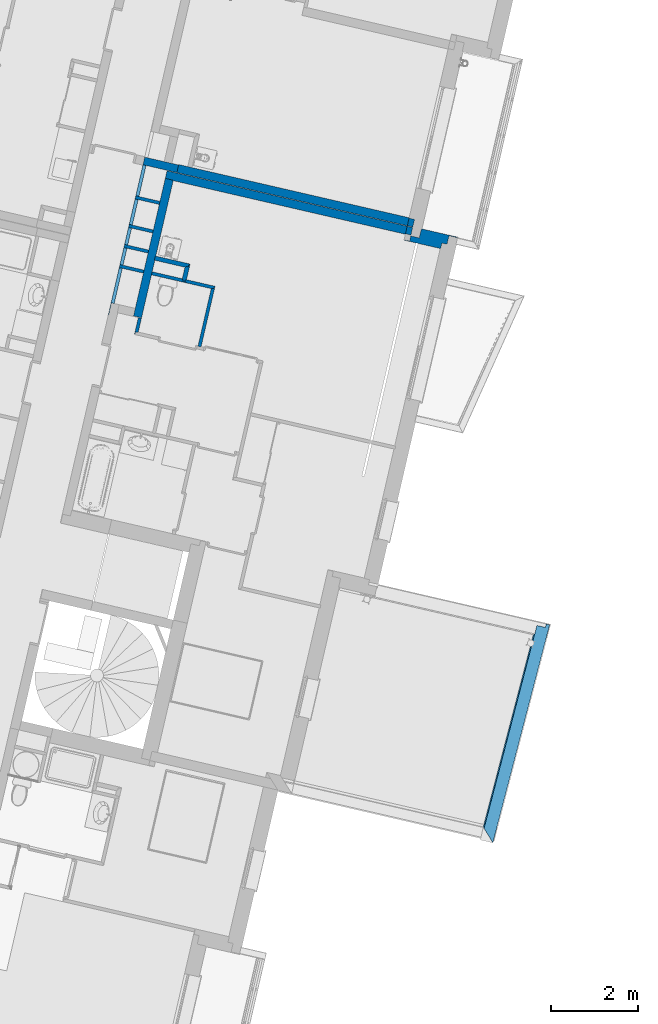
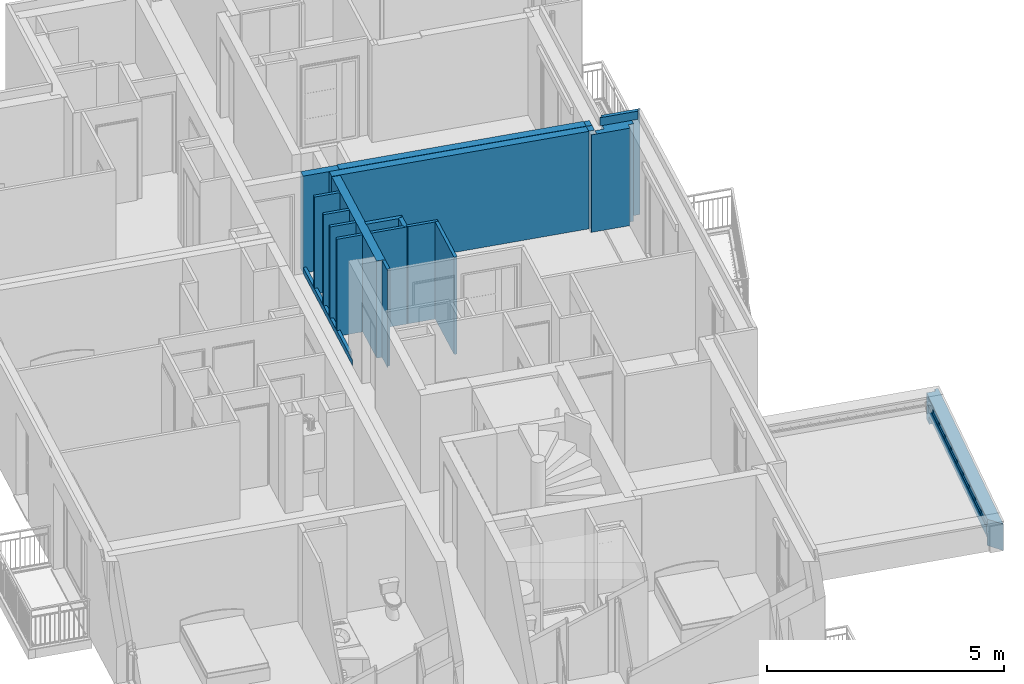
# One storey, part 50 of 90: 19 walls.
"""IFC2X3 building model written with IfcOpenShell, lengths in metres."""

from ifc_helpers import new_model, entity, si_unit, converted_unit, derived_unit, money_unit, direction, frame, origin_with_axes, place, context, subcontext, project, spatial, faceted_brep, material, material_list, type_object, element, save


model = new_model("IFC2X3")

# Units and contexts
model_context = context("Model", 3, precision=1e-05, world=origin_with_axes(), true_north=direction((0.0, 1.0)))
body_context = subcontext(model_context, "Body", "Model", "MODEL_VIEW")
ifc_project = project(units=[si_unit("LENGTHUNIT", "METRE"), si_unit("AREAUNIT", "SQUARE_METRE"), si_unit("VOLUMEUNIT", "CUBIC_METRE"), converted_unit("PLANEANGLEUNIT", "DEGREE", entity("IfcPlaneAngleMeasure", 0.0174532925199), si_unit("PLANEANGLEUNIT", "RADIAN"), dimensions=[0, 0, 0, 0, 0, 0, 0]), si_unit("SOLIDANGLEUNIT", "STERADIAN"), money_unit("EUR"), converted_unit("TIMEUNIT", "Year", entity("IfcTimeMeasure", 31556926.0), si_unit("TIMEUNIT", "SECOND"), dimensions=[0, 0, 1, 0, 0, 0, 0]), si_unit("MASSUNIT", "GRAM", prefix="KILO"), si_unit("THERMODYNAMICTEMPERATUREUNIT", "DEGREE_CELSIUS"), si_unit("LUMINOUSINTENSITYUNIT", "LUMEN"), si_unit("ENERGYUNIT", "JOULE", prefix="MEGA"), derived_unit("THERMALCONDUCTANCEUNIT", [(si_unit("POWERUNIT", "WATT"), 1), (si_unit("LENGTHUNIT", "METRE"), -1), (si_unit("THERMODYNAMICTEMPERATUREUNIT", "KELVIN"), -1)]), derived_unit("SPECIFICHEATCAPACITYUNIT", [(si_unit("ENERGYUNIT", "JOULE"), 1), (si_unit("MASSUNIT", "GRAM", prefix="KILO"), -1), (si_unit("THERMODYNAMICTEMPERATUREUNIT", "KELVIN"), -1)]), derived_unit("MASSDENSITYUNIT", [(si_unit("MASSUNIT", "GRAM", prefix="KILO"), 1), (si_unit("VOLUMEUNIT", "CUBIC_METRE"), -1)])], contexts=[model_context])

# Site, building, storey
site_placement = place(None, origin_with_axes())
site = spatial("IfcSite", under=ifc_project, at=site_placement, Name="Site", CompositionType="ELEMENT")
building_placement = place(site_placement, origin_with_axes())
building = spatial("IfcBuilding", under=site, at=building_placement, Name="Bâtiment", CompositionType="ELEMENT")
storey_placement = place(building_placement, frame((0.0, 0.0, 2.72), z_axis=(0.0, 0.0, 1.0), x_axis=(1.0, 0.0, 0.0)))
storey = spatial("IfcBuildingStorey", under=building, at=storey_placement, Name="R+1", CompositionType="ELEMENT", Elevation=2.72)

# Walls
ifc_material_1 = material(Name="Finition ext - Crépis")
ifc_material_2 = material(Name="Béton cellulaire")
ifc_material_3 = material(Name="Mortier")
ifc_material_4 = material(Name="Isolation - Polystyrène expansé")
ifc_material_5 = material(Name="Bloc ELITHERM")
ifc_material_6 = material(Name="Isolation - Polystyrène extrudé")
ifc_material_7 = material(Name="Finition int - Plaque de plâtre")
ifc_material_list_1 = material_list([ifc_material_1, ifc_material_2, ifc_material_3, ifc_material_4, ifc_material_5, ifc_material_6, ifc_material_7])
wall_type_1 = type_object("IfcWallType", Name="Mur ALKERN + planelle 21 345 x 2720", PredefinedType="USERDEFINED")
wall_1_placement = place(storey_placement, frame((-2.0399750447, 2.57865305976, 0.0), z_axis=(0.0, 0.0, 1.0), x_axis=(0.974387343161, -0.224876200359, 0.0)))
element("IfcWall", 1, at=wall_1_placement, inside=storey, type_object=wall_type_1, material=ifc_material_list_1, Name="Mue bloc ALKERN isolé", ObjectType="SOLIDWALL", context=body_context, shape_type="Brep", body=[
    faceted_brep([(-0.0149999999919, -0.0149999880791, 2.72), (0.825808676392, -0.0149999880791, 2.72), (0.825808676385, 0.0, 2.72), (-0.015, 0.0, 2.72), (0.825808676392, -0.0149999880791, 0.0), (-0.0149999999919, -0.0149999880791, 0.0), (0.825808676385, 0.0, 0.0), (-0.015, 0.0, 0.0)], [[[0, 1, 2, 3]], [[4, 1, 0, 5]], [[6, 2, 1, 4]], [[3, 2, 6, 7]], [[5, 0, 3, 7]], [[7, 6, 4, 5]]]),
    faceted_brep([(0.777808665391, -0.0629999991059, 2.72), (0.777808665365, -0.015, 2.72), (-0.0299999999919, -0.015, 2.72), (-0.0299999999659, -0.0629999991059, 2.72), (0.777808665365, -0.015, 2.51999999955), (0.777808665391, -0.0629999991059, 2.51999999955), (-0.0299999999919, -0.015, 2.51999999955), (-0.0299999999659, -0.0629999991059, 2.51999999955)], [[[0, 1, 2, 3]], [[4, 1, 0, 5]], [[1, 4, 6, 2]], [[3, 2, 6, 7]], [[5, 0, 3, 7]], [[4, 5, 7, 6]]]),
    faceted_brep([(0.757808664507, -0.083, 2.52), (0.757808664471, -0.015, 2.52), (-0.0299999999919, -0.015, 2.52), (-0.0299999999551, -0.083, 2.52), (0.757808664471, -0.015, 2.51), (0.757808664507, -0.083, 2.51), (-0.0299999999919, -0.015, 2.51), (-0.0299999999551, -0.083, 2.51)], [[[0, 1, 2, 3]], [[4, 1, 0, 5]], [[1, 4, 6, 2]], [[3, 2, 6, 7]], [[5, 0, 3, 7]], [[4, 5, 7, 6]]]),
    faceted_brep([(-0.0780000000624, -0.083000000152, 2.72), (0.757808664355, -0.083000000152, 2.72), (0.757808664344, -0.0630000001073, 2.72), (-0.0780000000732, -0.0630000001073, 2.72), (-0.0780000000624, -0.083000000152, 2.51999999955), (0.757808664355, -0.083000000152, 2.51999999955), (0.757808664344, -0.0630000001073, 2.51999999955), (-0.0780000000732, -0.0630000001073, 2.51999999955)], [[[0, 1, 2, 3]], [[4, 5, 1, 0]], [[5, 6, 2, 1]], [[3, 2, 6, 7]], [[4, 0, 3, 7]], [[7, 6, 5, 4]]]),
    faceted_brep([(0.625808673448, -0.0829999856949, 2.50999999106), (0.625808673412, -0.015, 2.50999999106), (-0.0299999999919, -0.015, 2.50999999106), (-0.0299999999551, -0.0829999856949, 2.50999999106), (0.625808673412, -0.015, 0.0), (0.625808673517, -0.214999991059, 2.50999999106), (0.625808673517, -0.214999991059, 0.0), (-0.0299999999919, -0.015, 0.0), (-0.0299999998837, -0.214999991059, 0.0), (-0.0299999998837, -0.214999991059, 2.50999999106)], [[[0, 1, 2, 3]], [[4, 1, 0, 5, 6]], [[1, 4, 7, 2]], [[3, 2, 7, 8, 9]], [[5, 0, 3, 9]], [[6, 5, 9, 8]], [[4, 6, 8, 7]]]),
    faceted_brep([(-0.230000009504, -0.335000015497, 2.51), (0.505808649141, -0.335000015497, 2.51), (0.505808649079, -0.215000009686, 2.51), (-0.230000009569, -0.215000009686, 2.51), (-0.230000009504, -0.335000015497, 0.0), (0.505808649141, -0.335000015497, 0.0), (0.505808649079, -0.215000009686, 0.0), (-0.230000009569, -0.215000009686, 0.0)], [[[0, 1, 2, 3]], [[4, 5, 1, 0]], [[5, 6, 2, 1]], [[3, 2, 6, 7]], [[4, 0, 3, 7]], [[7, 6, 5, 4]]]),
    faceted_brep([(-0.350000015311, -0.34499998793, 2.51), (0.495808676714, -0.34499998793, 2.51), (0.495808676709, -0.335000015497, 2.51), (-0.350000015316, -0.335000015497, 2.51), (-0.350000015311, -0.34499998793, 0.0), (0.495808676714, -0.34499998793, 0.0), (0.495808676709, -0.335000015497, 0.0), (-0.350000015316, -0.335000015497, 0.0)], [[[0, 1, 2, 3]], [[4, 5, 1, 0]], [[5, 6, 2, 1]], [[3, 2, 6, 7]], [[4, 0, 3, 7]], [[7, 6, 5, 4]]]),
])
ifc_material_8 = material(Name="Cloison - Carreaux de plâtre")
wall_type_2 = type_object("IfcWallType", Name="Cloison - Carreaux de plâtre 74", PredefinedType="USERDEFINED")
wall_2_placement = place(storey_placement, frame((-9.20392746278, 0.883172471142, 0.0), z_axis=(0.0, 0.0, 1.0), x_axis=(0.224876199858, 0.974387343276, 0.0)))
element("IfcWall", 2, at=wall_2_placement, inside=storey, type_object=wall_type_2, material=ifc_material_8, Name="Carreaux de plâtre 8cm", ObjectType="PARTITIONING", context=body_context, shape_type="Brep", body=[
    faceted_brep([(3.25805722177, 0.0, 0.15), (-0.29, 0.0, 0.15), (-0.29, -0.00999999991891, 0.15), (0.0, -0.00999999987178, 0.15), (0.0, -0.074, 0.15), (3.25805722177, -0.074, 0.15), (3.25805722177, 0.0, 0.0), (-0.29, 0.0, 0.0), (-0.29, -0.00999999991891, 0.0), (0.0, -0.00999999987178, 0.0), (0.0, -0.074, 0.0), (3.25805722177, -0.074, 0.0)], [[[0, 1, 2, 3, 4, 5]], [[0, 6, 7, 1]], [[1, 7, 8, 2]], [[8, 9, 3, 2]], [[3, 9, 10, 4]], [[11, 5, 4, 10]], [[5, 11, 6, 0]], [[11, 10, 9, 8, 7, 6]]]),
])
wall_3_placement = place(storey_placement, frame((-8.78745674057, 2.6877378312, 0.0), z_axis=(0.0, 0.0, 1.0), x_axis=(0.974387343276, -0.224876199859, 0.0)))
element("IfcWall", 3, at=wall_3_placement, inside=storey, type_object=wall_type_2, material=ifc_material_8, Name="Carreaux de plâtre 8cm", ObjectType="PARTITIONING", context=body_context, shape_type="Brep", body=[
    faceted_brep([(0.570000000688, 0.0, 0.0), (0.0739999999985, 0.0, 0.0), (0.0739999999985, 0.0, 0.15), (0.0, 0.0, 0.15), (0.0, 0.0, 2.5), (0.570000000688, 0.0, 2.5), (0.570000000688, -0.074, 0.0), (0.0739999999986, -0.074, 0.0), (0.0739999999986, -0.074, 0.15), (0.0, -0.074, 0.15), (0.0, -0.074, 2.5), (0.570000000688, -0.074, 2.5)], [[[0, 1, 2, 3, 4, 5]], [[0, 6, 7, 1]], [[7, 8, 2, 1]], [[8, 9, 3, 2]], [[10, 4, 3, 9]], [[10, 11, 5, 4]], [[11, 6, 0, 5]], [[10, 9, 8, 7, 6, 11]]]),
])
wall_4_placement = place(storey_placement, frame((-8.63589018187, 3.34447490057, 0.0), z_axis=(0.0, 0.0, 1.0), x_axis=(0.974387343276, -0.224876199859, 0.0)))
element("IfcWall", 4, at=wall_4_placement, inside=storey, type_object=wall_type_2, material=ifc_material_8, Name="Carreaux de plâtre 8cm", ObjectType="PARTITIONING", context=body_context, shape_type="Brep", body=[
    faceted_brep([(0.570000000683, 0.0, 0.0), (0.0739999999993, 0.0, 0.0), (0.0739999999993, 0.0, 0.15), (0.0, 0.0, 0.15), (0.0, 0.0, 2.5), (0.570000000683, 0.0, 2.5), (0.570000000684, -0.074, 0.0), (0.0739999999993, -0.074, 0.0), (0.0739999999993, -0.074, 0.15), (0.0, -0.074, 0.15), (0.0, -0.074, 2.5), (0.570000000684, -0.074, 2.5)], [[[0, 1, 2, 3, 4, 5]], [[0, 6, 7, 1]], [[7, 8, 2, 1]], [[8, 9, 3, 2]], [[10, 4, 3, 9]], [[10, 11, 5, 4]], [[11, 6, 0, 5]], [[10, 9, 8, 7, 6, 11]]]),
])
wall_5_placement = place(storey_placement, frame((-9.00063937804, 1.76401862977, 0.0), z_axis=(0.0, 0.0, 1.0), x_axis=(0.974387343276, -0.224876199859, 0.0)))
element("IfcWall", 5, at=wall_5_placement, inside=storey, type_object=wall_type_2, material=ifc_material_8, Name="Carreaux de plâtre 8cm", ObjectType="PARTITIONING", context=body_context, shape_type="Brep", body=[
    faceted_brep([(0.570000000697, 0.0, 0.0), (0.0740000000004, 0.0, 0.0), (0.0740000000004, 0.0, 0.15), (0.0, 0.0, 0.15), (0.0, 0.0, 2.5), (0.570000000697, 0.0, 2.5), (0.570000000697, -0.074, 0.0), (0.0740000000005, -0.074, 0.0), (0.0740000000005, -0.074, 0.15), (0.0, -0.074, 0.15), (0.0, -0.074, 2.5), (0.570000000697, -0.074, 2.5)], [[[0, 1, 2, 3, 4, 5]], [[0, 6, 7, 1]], [[7, 8, 2, 1]], [[8, 9, 3, 2]], [[10, 4, 3, 9]], [[10, 11, 5, 4]], [[11, 6, 0, 5]], [[10, 9, 8, 7, 6, 11]]]),
])
wall_6_placement = place(storey_placement, frame((-8.89404805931, 2.22587823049, 0.0), z_axis=(0.0, 0.0, 1.0), x_axis=(0.974387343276, -0.224876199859, 0.0)))
element("IfcWall", 6, at=wall_6_placement, inside=storey, type_object=wall_type_2, material=ifc_material_8, Name="Carreaux de plâtre 8cm", ObjectType="PARTITIONING", context=body_context, shape_type="Brep", body=[
    faceted_brep([(0.570000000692, 0.0, 0.0), (0.0739999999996, 0.0, 0.0), (0.0739999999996, 0.0, 0.15), (0.0, 0.0, 0.15), (0.0, 0.0, 2.5), (0.570000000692, 0.0, 2.5), (0.570000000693, -0.074, 0.0), (0.0739999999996, -0.074, 0.0), (0.0739999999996, -0.074, 0.15), (0.0, -0.074, 0.15), (0.0, -0.074, 2.5), (0.570000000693, -0.074, 2.5)], [[[0, 1, 2, 3, 4, 5]], [[0, 6, 7, 1]], [[7, 8, 2, 1]], [[8, 9, 3, 2]], [[10, 4, 3, 9]], [[10, 11, 5, 4]], [[11, 6, 0, 5]], [[10, 9, 8, 7, 6, 11]]]),
])
ifc_material_9 = material(Name="Isolation - Laine de roche")
ifc_material_list_2 = material_list([ifc_material_7, ifc_material_9, ifc_material_7])
wall_type_3 = type_object("IfcWallType", Name="3 - Cloison 72mm Placostil 74", PredefinedType="USERDEFINED")
wall_7_placement = place(storey_placement, frame((-6.81321467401, 1.26329398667, 0.0), z_axis=(0.0, 0.0, 1.0), x_axis=(-0.97438734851, 0.224876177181, 0.0)))
element("IfcWall", 7, at=wall_7_placement, inside=storey, type_object=wall_type_3, material=ifc_material_list_2, Name="Cloison Placostil 72/48", ObjectType="PARTITIONING", context=body_context, shape_type="Brep", body=[
    faceted_brep([(0.0610000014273, 0.061, 0.0), (0.674000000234, 0.0609999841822, 0.0), (0.674000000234, 0.0609999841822, 2.5), (0.0610000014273, 0.061, 2.5), (0.0610000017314, 0.074, 0.0), (0.674000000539, 0.0739999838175, 0.0), (0.674000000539, 0.0739999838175, 2.5), (0.0610000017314, 0.074, 2.5)], [[[0, 1, 2, 3]], [[4, 5, 1, 0]], [[5, 6, 2, 1]], [[3, 2, 6, 7]], [[7, 4, 0, 3]], [[7, 6, 5, 4]]]),
    faceted_brep([(0.0130000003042, 0.013, 0.0), (0.699999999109, 0.0129999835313, 0.0), (0.699999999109, 0.0129999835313, 2.5), (0.0130000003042, 0.013, 2.5), (0.0130000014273, 0.061, 0.0), (0.700000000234, 0.0609999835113, 0.0), (0.700000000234, 0.0609999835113, 2.5), (0.0130000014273, 0.061, 2.5)], [[[0, 1, 2, 3]], [[4, 5, 1, 0]], [[5, 6, 2, 1]], [[3, 2, 6, 7]], [[7, 4, 0, 3]], [[7, 6, 5, 4]]]),
    faceted_brep([(0.0, 0.0, 0.0), (0.673999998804, -1.5876288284e-08, 0.0), (0.673999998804, -1.5876288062e-08, 2.5), (0.0, 0.0, 2.5), (3.04170022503e-10, 0.013, 0.0), (0.673999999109, 0.0129999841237, 0.0), (0.673999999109, 0.0129999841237, 2.5), (3.04170022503e-10, 0.013, 2.5)], [[[0, 1, 2, 3]], [[4, 5, 1, 0]], [[5, 6, 2, 1]], [[3, 2, 6, 7]], [[7, 4, 0, 3]], [[7, 6, 5, 4]]]),
])
wall_8_placement = place(storey_placement, frame((-7.1500792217, -0.196338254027, 0.0), z_axis=(0.0, 0.0, 1.0), x_axis=(0.224876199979, 0.974387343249, 0.0)))
element("IfcWall", 8, at=wall_8_placement, inside=storey, type_object=wall_type_3, material=ifc_material_list_2, Name="Cloison Placostil 72/48", ObjectType="PARTITIONING", context=body_context, shape_type="Brep", body=[
    faceted_brep([(1.4239999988, 0.074, 0.0), (1.4239999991, 0.061, 0.0), (0.0740000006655, 0.061, 0.0), (0.0740000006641, 0.074, 0.0), (1.4239999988, 0.074, 2.5), (1.4239999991, 0.061, 2.5), (0.0740000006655, 0.061, 2.5), (0.0740000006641, 0.074, 2.5)], [[[0, 1, 2, 3]], [[1, 0, 4, 5]], [[1, 5, 6, 2]], [[7, 3, 2, 6]], [[4, 0, 3, 7]], [[5, 4, 7, 6]]]),
    faceted_brep([(1.4369999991, 0.061, 0.0), (1.43700000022, 0.013, 0.0), (0.0610000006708, 0.013, 0.0), (0.0610000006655, 0.061, 0.0), (1.4369999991, 0.061, 2.5), (1.43700000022, 0.013, 2.5), (0.0610000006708, 0.013, 2.5), (0.0610000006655, 0.061, 2.5)], [[[0, 1, 2, 3]], [[1, 0, 4, 5]], [[1, 5, 6, 2]], [[7, 3, 2, 6]], [[4, 0, 3, 7]], [[5, 4, 7, 6]]]),
    faceted_brep([(1.48500000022, 0.013, 0.0), (1.48500000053, 0.0, 0.0), (0.0740000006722, 0.0, 0.0), (0.0740000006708, 0.013, 0.0), (1.48500000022, 0.013, 2.5), (1.48500000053, 0.0, 2.5), (0.0740000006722, 0.0, 2.5), (0.0740000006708, 0.013, 2.5)], [[[0, 1, 2, 3]], [[1, 0, 4, 5]], [[1, 5, 6, 2]], [[7, 3, 2, 6]], [[4, 0, 3, 7]], [[5, 4, 7, 6]]]),
])
wall_9_placement = place(storey_placement, frame((-8.50611955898, 0.527132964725, 0.0), z_axis=(0.0, 0.0, 1.0), x_axis=(-0.224876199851, -0.974387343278, 0.0)))
element("IfcWall", 9, at=wall_9_placement, inside=storey, type_object=wall_type_3, material=ifc_material_list_2, Name="Cloison Placostil 72/48", ObjectType="PARTITIONING", context=body_context, shape_type="Brep", body=[
    faceted_brep([(0.32600000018, -0.013, 2.5), (0.326000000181, 0.0, 2.5), (0.0, 0.0, 2.5), (0.0, -0.013, 2.5), (0.32600000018, -0.013, 0.0), (0.326000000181, 0.0, 0.0), (0.0, 0.0, 0.0), (0.0, -0.013, 0.0)], [[[0, 1, 2, 3]], [[1, 0, 4, 5]], [[1, 5, 6, 2]], [[7, 3, 2, 6]], [[4, 0, 3, 7]], [[5, 4, 7, 6]]]),
    faceted_brep([(0.339000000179, -0.061, 2.5), (0.33900000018, -0.013, 2.5), (0.0, -0.013, 2.5), (0.0, -0.061, 2.5), (0.339000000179, -0.061, 0.0), (0.33900000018, -0.013, 0.0), (0.0, -0.013, 0.0), (0.0, -0.061, 0.0)], [[[0, 1, 2, 3]], [[1, 0, 4, 5]], [[1, 5, 6, 2]], [[7, 3, 2, 6]], [[4, 0, 3, 7]], [[5, 4, 7, 6]]]),
    faceted_brep([(0.387000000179, -0.074, 2.5), (0.387000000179, -0.061, 2.5), (0.0, -0.061, 2.5), (0.0, -0.074, 2.5), (0.387000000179, -0.074, 0.0), (0.387000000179, -0.061, 0.0), (0.0, -0.061, 0.0), (0.0, -0.074, 0.0)], [[[0, 1, 2, 3]], [[1, 0, 4, 5]], [[1, 5, 6, 2]], [[7, 3, 2, 6]], [[4, 0, 3, 7]], [[5, 4, 7, 6]]]),
])
wall_type_4 = type_object("IfcWallType", Name="3 - Cloison Gaine Technique 72mm 74", PredefinedType="USERDEFINED")
wall_10_placement = place(storey_placement, frame((-7.46995174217, 1.41486054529, 0.0), z_axis=(0.0, 0.0, 1.0), x_axis=(-0.974387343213, 0.224876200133, 0.0)))
element("IfcWall", 10, at=wall_10_placement, inside=storey, type_object=wall_type_4, material=ifc_material_list_2, Name="Cloison Placostil 72/48", ObjectType="PARTITIONING", context=body_context, shape_type="Brep", body=[
    faceted_brep([(0.0259999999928, 0.061, 0.0), (0.0259999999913, 0.074, 0.0), (0.810000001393, 0.074, 0.0), (0.810000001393, 0.061, 0.0), (0.0259999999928, 0.061, 2.5), (0.0259999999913, 0.074, 2.5), (0.810000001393, 0.074, 2.5), (0.810000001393, 0.061, 2.5)], [[[0, 1, 2, 3]], [[4, 5, 1, 0]], [[1, 5, 6, 2]], [[7, 3, 2, 6]], [[4, 0, 3, 7]], [[5, 4, 7, 6]]]),
    faceted_brep([(0.0739999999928, 0.061, 0.0), (0.810000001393, 0.061, 0.0), (0.810000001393, 0.013, 0.0), (0.0739999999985, 0.013, 0.0), (0.0739999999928, 0.061, 2.5), (0.810000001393, 0.061, 2.5), (0.810000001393, 0.013, 2.5), (0.0739999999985, 0.013, 2.5)], [[[0, 1, 2, 3]], [[4, 5, 1, 0]], [[2, 1, 5, 6]], [[3, 2, 6, 7]], [[4, 0, 3, 7]], [[7, 6, 5, 4]]]),
    faceted_brep([(0.0999999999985, 0.013, 0.0), (0.810000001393, 0.013, 0.0), (0.810000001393, 0.0, 0.0), (0.1, 0.0, 0.0), (0.0999999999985, 0.013, 2.5), (0.810000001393, 0.013, 2.5), (0.810000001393, 0.0, 2.5), (0.1, 0.0, 2.5)], [[[0, 1, 2, 3]], [[4, 5, 1, 0]], [[2, 1, 5, 6]], [[3, 2, 6, 7]], [[4, 0, 3, 7]], [[7, 6, 5, 4]]]),
])
ifc_material_10 = material(Name="Finition int - Enduit plâtre")
ifc_material_11 = material(Name="Béton")
ifc_material_list_3 = material_list([ifc_material_10, ifc_material_11])
wall_type_5 = type_object("IfcWallType", Name="2 - Murs Béton 18 + Enduit 1 Face 190", PredefinedType="USERDEFINED")
wall_11_placement = place(storey_placement, frame((-7.91811591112, 3.91985888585, 0.0), z_axis=(0.0, 0.0, 1.0), x_axis=(-0.224876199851, -0.974387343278, 0.0)))
element("IfcWall", 11, at=wall_11_placement, inside=storey, type_object=wall_type_5, material=ifc_material_list_3, Name="M_Ext-008", ObjectType="SOLIDWALL", context=body_context, shape_type="Brep", body=[
    faceted_brep([(1.97000000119, 0.19, 0.0), (1.9700000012, 0.18, 0.0), (0.190000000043, 0.18, 0.0), (0.190000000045, 0.19, 0.0), (1.97000000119, 0.19, 2.5), (1.9700000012, 0.18, 2.5), (0.190000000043, 0.18, 2.5), (0.190000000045, 0.19, 2.5)], [[[0, 1, 2, 3]], [[1, 0, 4, 5]], [[1, 5, 6, 2]], [[7, 3, 2, 6]], [[4, 0, 3, 7]], [[5, 4, 7, 6]]]),
    faceted_brep([(3.43805722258, 0.19, 0.0), (3.4380572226, 0.18, 0.0), (2.0700000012, 0.18, 0.0), (2.07000000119, 0.19, 0.0), (3.43805722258, 0.19, 2.5), (3.4380572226, 0.18, 2.5), (2.0700000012, 0.18, 2.5), (2.07000000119, 0.19, 2.5)], [[[0, 1, 2, 3]], [[1, 0, 4, 5]], [[1, 5, 6, 2]], [[7, 3, 2, 6]], [[4, 0, 3, 7]], [[5, 4, 7, 6]]]),
    faceted_brep([(3.4280572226, 0.18, 0.0), (3.4280572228, 0.0, 0.0), (0.18, 0.0, 0.0), (0.180000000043, 0.18, 0.0), (3.4280572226, 0.18, 2.5), (3.4280572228, 0.0, 2.5), (0.18, 0.0, 2.5), (0.180000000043, 0.18, 2.5)], [[[0, 1, 2, 3]], [[1, 0, 4, 5]], [[1, 5, 6, 2]], [[7, 3, 2, 6]], [[4, 0, 3, 7]], [[5, 4, 7, 6]]]),
])
ifc_material_list_4 = material_list([ifc_material_11, ifc_material_10])
wall_12_placement = place(storey_placement, frame((-7.91811591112, 3.91985888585, 0.0), z_axis=(0.0, 0.0, 1.0), x_axis=(0.974387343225, -0.224876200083, 0.0)))
element("IfcWall", 12, at=wall_12_placement, inside=storey, type_object=wall_type_5, material=ifc_material_list_4, Name="M_Ext-009", ObjectType="SOLIDWALL", context=body_context, shape_type="Brep", body=[
    faceted_brep([(5.66919134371, 0.0, 0.0), (0.0, 0.0, 0.0), (0.0, 0.0, 2.5), (0.0, 0.0, 2.5099999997), (5.66919134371, 0.0, 2.51), (5.66919134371, -0.18, 0.0), (0.0, -0.18, 0.0), (0.0, -0.18, 2.5), (0.0, -0.18, 2.5099999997), (5.66919134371, -0.18, 2.51)], [[[0, 1, 2, 3, 4]], [[5, 6, 1, 0]], [[6, 7, 2, 1]], [[3, 2, 7, 8]], [[4, 3, 8, 9]], [[0, 4, 9, 5]], [[8, 7, 6, 5, 9]]]),
    faceted_brep([(0.180000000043, -0.18, 0.0), (0.180000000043, -0.18, 2.5), (0.0, -0.18, 2.5), (0.0, -0.18, 2.5099999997), (5.66919134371, -0.18, 2.51), (5.66919134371, -0.18, 0.0), (0.180000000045, -0.19, 2.5), (0.180000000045, -0.19, 0.0), (0.0, -0.19, 2.5), (0.0, -0.19, 2.5099999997), (5.66919134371, -0.19, 2.51), (5.66919134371, -0.19, 0.0)], [[[0, 1, 2, 3, 4, 5]], [[6, 1, 0, 7]], [[8, 2, 1, 6]], [[3, 2, 8, 9]], [[10, 4, 3, 9]], [[11, 5, 4, 10]], [[11, 7, 0, 5]], [[8, 6, 7, 11, 10, 9]]]),
])
wall_13_placement = place(storey_placement, frame((-7.69175806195, 3.87788123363, 0.0), z_axis=(0.0, 0.0, 1.0), x_axis=(0.974387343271, -0.224876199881, 0.0)))
element("IfcWall", 13, at=wall_13_placement, inside=storey, type_object=wall_type_5, material=ifc_material_list_3, Name="M_Ext-009", ObjectType="SOLIDWALL", context=body_context, shape_type="Brep", body=[
    faceted_brep([(0.0, 0.19, 0.0), (5.43919134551, 0.19, 0.0), (5.43919134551, 0.18, 0.0), (0.0, 0.18, 0.0), (0.0, 0.19, 2.51), (5.43919134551, 0.19, 2.51), (5.43919134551, 0.18, 2.51), (0.0, 0.18, 2.51)], [[[0, 1, 2, 3]], [[4, 5, 1, 0]], [[2, 1, 5, 6]], [[3, 2, 6, 7]], [[4, 0, 3, 7]], [[7, 6, 5, 4]]]),
    faceted_brep([(0.0, 0.18, 0.0), (5.43919134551, 0.18, 0.0), (5.43919134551, 0.0, 0.0), (0.0, 0.0, 0.0), (0.0, 0.18, 2.51), (5.43919134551, 0.18, 2.51), (5.43919134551, 0.0, 2.51), (0.0, 0.0, 2.51)], [[[0, 1, 2, 3]], [[4, 5, 1, 0]], [[2, 1, 5, 6]], [[3, 2, 6, 7]], [[4, 0, 3, 7]], [[7, 6, 5, 4]]]),
])
wall_type_6 = type_object("IfcWallType", Name="Béton 180", PredefinedType="USERDEFINED")
wall_14_placement = place(storey_placement, frame((-8.47126301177, 4.05778105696, 0.0), z_axis=(0.0, 0.0, 1.0), x_axis=(0.974387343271, -0.224876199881, 0.0)))
element("IfcWall", 14, at=wall_14_placement, inside=storey, type_object=wall_type_6, material=ifc_material_11, Name="M_Ext-009", ObjectType="SOLIDWALL", context=body_context, shape_type="Brep", body=[
    faceted_brep([(0.799994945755, 0.18, 2.5), (0.799994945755, 0.18, 0.0), (-5.05312437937e-06, 0.18, 0.0), (-5.05312437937e-06, 0.18, 0.15), (0.0, 0.18, 2.5), (0.799994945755, 0.0, 2.5), (0.799994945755, 0.0, 0.0), (-5.05312008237e-06, 0.0, 0.0), (-5.05312008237e-06, 0.0, 0.15), (0.0, 0.0, 2.5)], [[[0, 1, 2, 3, 4]], [[0, 5, 6, 1]], [[1, 6, 7, 2]], [[2, 7, 8, 3]], [[9, 4, 3, 8]], [[5, 0, 4, 9]], [[5, 9, 8, 7, 6]]]),
])
wall_15_placement = place(storey_placement, frame((-2.39187885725, 2.65473655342, 0.0), z_axis=(0.0, 0.0, 1.0), x_axis=(0.97438734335, -0.224876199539, 0.0)))
element("IfcWall", 15, at=wall_15_placement, inside=storey, type_object=wall_type_6, material=ifc_material_11, Name="M_Ext-009", ObjectType="SOLIDWALL", context=body_context, shape_type="Brep", body=[
    faceted_brep([(0.0, 0.0, 0.0), (0.0, 0.18, 0.0), (0.129999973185, 0.18, 0.0), (0.129999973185, 0.0, 0.0), (0.0, 0.0, 2.51), (0.0, 0.18, 2.51), (0.129999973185, 0.18, 2.51), (0.129999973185, 0.0, 2.51)], [[[0, 1, 2, 3]], [[4, 5, 1, 0]], [[1, 5, 6, 2]], [[7, 3, 2, 6]], [[4, 0, 3, 7]], [[5, 4, 7, 6]]]),
])
wall_16_placement = place(storey_placement, frame((-2.3941276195, 2.64499267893, 0.0), z_axis=(0.0, 0.0, 1.0), x_axis=(0.974387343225, -0.224876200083, 0.0)))
element("IfcWall", 16, at=wall_16_placement, inside=storey, type_object=wall_type_6, material=ifc_material_11, Name="M_Ext-009", ObjectType="SOLIDWALL", context=body_context, shape_type="Brep", body=[
    faceted_brep([(0.0, 0.0, 2.51), (0.0, -0.18, 2.51), (0.129999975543, -0.18, 2.51), (0.129999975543, 0.0, 2.51), (0.0, 0.0, 0.0), (0.0, -0.18, 0.0), (0.129999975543, -0.18, 0.0), (0.129999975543, 0.0, 0.0)], [[[0, 1, 2, 3]], [[4, 5, 1, 0]], [[1, 5, 6, 2]], [[7, 3, 2, 6]], [[4, 0, 3, 7]], [[5, 4, 7, 6]]]),
])
ifc_material_list_5 = material_list([ifc_material_7, ifc_material_7, ifc_material_9, ifc_material_7, ifc_material_7])
wall_type_7 = type_object("IfcWallType", Name="3 - Cloison Gaine Technique 98mm 100", PredefinedType="USERDEFINED")
wall_17_placement = place(storey_placement, frame((-7.3867346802, 1.77543961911, 0.0), z_axis=(0.0, 0.0, 1.0), x_axis=(-0.224876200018, -0.97438734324, 0.0)))
element("IfcWall", 17, at=wall_17_placement, inside=storey, type_object=wall_type_7, material=ifc_material_list_5, Name="Cloison 98 isolée", ObjectType="PARTITIONING", context=body_context, shape_type="Brep", body=[
    faceted_brep([(0.444057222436, 0.0, 0.0), (0.431057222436, 0.0, 0.0), (0.431057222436, 0.0, 2.5), (0.444057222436, 0.0, 2.5), (0.444057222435, -0.013, 0.0), (0.431057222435, -0.013, 0.0), (0.431057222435, -0.013, 2.5), (0.444057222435, -0.013, 2.5)], [[[0, 1, 2, 3]], [[4, 5, 1, 0]], [[5, 6, 2, 1]], [[3, 2, 6, 7]], [[0, 3, 7, 4]], [[7, 6, 5, 4]]]),
    faceted_brep([(0.0130000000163, -0.013, 2.5), (0.383057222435, -0.013, 2.5), (0.383057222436, 0.0, 2.5), (0.013, 0.0, 2.5), (0.0130000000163, -0.013, 0.0), (0.383057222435, -0.013, 0.0), (0.383057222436, 0.0, 0.0), (0.013, 0.0, 0.0)], [[[0, 1, 2, 3]], [[4, 5, 1, 0]], [[5, 6, 2, 1]], [[3, 2, 6, 7]], [[7, 4, 0, 3]], [[7, 6, 5, 4]]]),
    faceted_brep([(0.444057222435, -0.013, 0.0), (0.431057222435, -0.013, 0.0), (0.431057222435, -0.013, 2.5), (0.444057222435, -0.013, 2.5), (0.444057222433, -0.026, 0.0), (0.431057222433, -0.026, 0.0), (0.431057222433, -0.026, 2.5), (0.444057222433, -0.026, 2.5)], [[[0, 1, 2, 3]], [[4, 5, 1, 0]], [[5, 6, 2, 1]], [[3, 2, 6, 7]], [[0, 3, 7, 4]], [[7, 6, 5, 4]]]),
    faceted_brep([(0.0260000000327, -0.026, 2.5), (0.383057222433, -0.026, 2.5), (0.383057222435, -0.013, 2.5), (0.0260000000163, -0.013, 2.5), (0.0260000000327, -0.026, 0.0), (0.383057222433, -0.026, 0.0), (0.383057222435, -0.013, 0.0), (0.0260000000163, -0.013, 0.0)], [[[0, 1, 2, 3]], [[4, 5, 1, 0]], [[5, 6, 2, 1]], [[3, 2, 6, 7]], [[7, 4, 0, 3]], [[7, 6, 5, 4]]]),
    faceted_brep([(0.0740000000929, -0.074, 2.5), (0.431057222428, -0.074, 2.5), (0.431057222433, -0.026, 2.5), (0.0740000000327, -0.026, 2.5), (0.0740000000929, -0.074, 0.0), (0.431057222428, -0.074, 0.0), (0.431057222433, -0.026, 0.0), (0.0740000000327, -0.026, 0.0)], [[[0, 1, 2, 3]], [[4, 5, 1, 0]], [[6, 2, 1, 5]], [[3, 2, 6, 7]], [[7, 4, 0, 3]], [[7, 6, 5, 4]]]),
    faceted_brep([(0.383057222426, -0.087, 2.5), (0.383057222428, -0.074, 2.5), (0.0870000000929, -0.074, 2.5), (0.0870000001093, -0.087, 2.5), (0.383057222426, -0.087, 0.0), (0.383057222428, -0.074, 0.0), (0.0870000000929, -0.074, 0.0), (0.0870000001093, -0.087, 0.0)], [[[0, 1, 2, 3]], [[1, 0, 4, 5]], [[1, 5, 6, 2]], [[7, 3, 2, 6]], [[4, 0, 3, 7]], [[5, 4, 7, 6]]]),
    faceted_brep([(0.383057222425, -0.1, 2.5), (0.383057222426, -0.087, 2.5), (0.100000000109, -0.087, 2.5), (0.100000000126, -0.1, 2.5), (0.383057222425, -0.1, 0.0), (0.383057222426, -0.087, 0.0), (0.100000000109, -0.087, 0.0), (0.100000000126, -0.1, 0.0)], [[[0, 1, 2, 3]], [[1, 0, 4, 5]], [[1, 5, 6, 2]], [[7, 3, 2, 6]], [[4, 0, 3, 7]], [[5, 4, 7, 6]]]),
])
wall_18_placement = place(storey_placement, frame((-8.36112202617, 2.00031581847, 0.0), z_axis=(0.0, 0.0, 1.0), x_axis=(0.974387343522, -0.224876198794, 0.0)))
element("IfcWall", 18, at=wall_18_placement, inside=storey, type_object=wall_type_7, material=ifc_material_list_5, Name="Cloison 98 isolée", ObjectType="PARTITIONING", context=body_context, shape_type="Brep", body=[
    faceted_brep([(1.00000000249, -0.013, 2.5), (1.00000000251, 0.0, 2.5), (0.180000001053, 0.0, 2.5), (0.180000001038, -0.013, 2.5), (1.00000000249, -0.013, 0.0), (1.00000000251, 0.0, 0.0), (0.180000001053, 0.0, 0.0), (0.180000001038, -0.013, 0.0)], [[[0, 1, 2, 3]], [[1, 0, 4, 5]], [[1, 5, 6, 2]], [[7, 3, 2, 6]], [[4, 0, 3, 7]], [[5, 4, 7, 6]]]),
    faceted_brep([(0.987000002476, -0.026, 2.5), (0.987000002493, -0.013, 2.5), (0.180000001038, -0.013, 2.5), (0.180000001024, -0.026, 2.5), (0.987000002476, -0.026, 0.0), (0.987000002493, -0.013, 0.0), (0.180000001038, -0.013, 0.0), (0.180000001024, -0.026, 0.0)], [[[0, 1, 2, 3]], [[1, 0, 4, 5]], [[1, 5, 6, 2]], [[7, 3, 2, 6]], [[4, 0, 3, 7]], [[5, 4, 7, 6]]]),
    faceted_brep([(0.974000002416, -0.074, 2.5), (0.974000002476, -0.026, 2.5), (0.180000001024, -0.026, 2.5), (0.180000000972, -0.074, 2.5), (0.974000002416, -0.074, 0.0), (0.974000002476, -0.026, 0.0), (0.180000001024, -0.026, 0.0), (0.180000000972, -0.074, 0.0)], [[[0, 1, 2, 3]], [[1, 0, 4, 5]], [[1, 5, 6, 2]], [[7, 3, 2, 6]], [[4, 0, 3, 7]], [[5, 4, 7, 6]]]),
    faceted_brep([(0.9260000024, -0.087, 2.5), (0.926000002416, -0.074, 2.5), (0.180000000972, -0.074, 2.5), (0.180000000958, -0.087, 2.5), (0.9260000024, -0.087, 0.0), (0.926000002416, -0.074, 0.0), (0.180000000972, -0.074, 0.0), (0.180000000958, -0.087, 0.0)], [[[0, 1, 2, 3]], [[1, 0, 4, 5]], [[1, 5, 6, 2]], [[7, 3, 2, 6]], [[4, 0, 3, 7]], [[5, 4, 7, 6]]]),
    faceted_brep([(0.913000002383, -0.1, 2.5), (0.9130000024, -0.087, 2.5), (0.180000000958, -0.087, 2.5), (0.180000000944, -0.1, 2.5), (0.913000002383, -0.1, 0.0), (0.9130000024, -0.087, 0.0), (0.180000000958, -0.087, 0.0), (0.180000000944, -0.1, 0.0)], [[[0, 1, 2, 3]], [[1, 0, 4, 5]], [[1, 5, 6, 2]], [[7, 3, 2, 6]], [[4, 0, 3, 7]], [[5, 4, 7, 6]]]),
])
ifc_material_12 = material(Name="Pierre")
ifc_material_13 = material(Name="Etanchéité - Bitume")
ifc_material_14 = material(Name="Métal - Aluminium")
ifc_material_list_6 = material_list([ifc_material_12, ifc_material_11, ifc_material_13, ifc_material_14])
wall_type_8 = type_object("IfcWallType", Name="Acrotère pour plancher 20 PAREMENT PIERRE 307 x 680", PredefinedType="USERDEFINED")
wall_19_placement = place(storey_placement, frame((0.882706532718, -6.52332371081, -0.5), z_axis=(0.0, 0.0, 1.0), x_axis=(-0.252140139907, -0.967690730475, 0.0)))
element("IfcWall", 19, at=wall_19_placement, inside=storey, type_object=wall_type_8, material=ifc_material_list_6, Name="Muret béton 20cm", ObjectType="PARAPET", context=body_context, shape_type="Brep", body=[
    faceted_brep([(0.00224661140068, -0.0799999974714, 0.680000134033), (5.10425723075, -0.0799999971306, 0.680000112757), (5.18204216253, 3.99938304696e-09, 0.680000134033), (2.34400410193e-09, 0.0, 0.680000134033), (0.00224661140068, -0.0799999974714, 0.0), (5.10425723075, -0.0799999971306, 0.0), (5.18204216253, 3.99938304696e-09, 0.0), (2.34400410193e-09, 0.0, 0.0)], [[[0, 1, 2, 3]], [[4, 5, 1, 0]], [[5, 6, 2, 1]], [[3, 2, 6, 7]], [[4, 0, 3, 7]], [[7, 6, 5, 4]]]),
    faceted_brep([(4.90321985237, -0.08, 0.0), (4.90321985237, -0.08, 0.2), (0.285183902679, -0.08, 0.2), (0.285183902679, -0.08, 0.0), (0.0822781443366, -0.0799999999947, 0.0), (0.0822781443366, -0.0799999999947, 0.680000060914), (5.10425722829, -0.0799999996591, 0.680000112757), (5.10425722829, -0.0799999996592, 0.0), (4.90887711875, -0.279999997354, 0.0), (4.90887711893, -0.280000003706, 0.2), (0.289028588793, -0.280000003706, 0.2), (0.289028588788, -0.280000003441, 0.0), (0.08789466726, -0.280000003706, 0.0), (0.08789466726, -0.280000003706, 0.310502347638), (0.087894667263, -0.280000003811, 0.527853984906), (0.087894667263, -0.280000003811, 0.537144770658), (0.08789466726, -0.280000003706, 0.576542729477), (0.08789466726, -0.280000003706, 0.680000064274), (4.90979490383, -0.279999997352, 0.68000005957), (4.90979490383, -0.279999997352, 0.310502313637), (4.90979490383, -0.279999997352, 0.0), (4.90979490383, -0.279999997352, 0.576542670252), (4.90979489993, -0.280000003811, 0.537144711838), (4.90979489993, -0.280000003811, 0.527853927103)], [[[0, 1, 2, 3, 4, 5, 6, 7]], [[1, 0, 8, 9]], [[2, 1, 9, 10]], [[3, 2, 10, 11]], [[3, 11, 12, 4]], [[12, 13, 14, 15, 16, 17, 5, 4]], [[6, 5, 17, 18]], [[19, 20, 7, 6, 18, 21, 22, 23]], [[8, 0, 7, 20]], [[9, 8, 20, 19, 13, 12, 11, 10]], [[23, 14, 13, 19]], [[22, 15, 14, 23]], [[21, 16, 15, 22]], [[18, 17, 16, 21]]]),
    faceted_brep([(0.287973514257, -0.280000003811, 0.499786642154), (0.287973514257, -0.280000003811, 0.527853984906), (4.90979489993, -0.280000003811, 0.527853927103), (4.90979490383, -0.279999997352, 0.310502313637), (0.287973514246, -0.280000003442, 0.310502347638), (0.288254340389, -0.290000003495, 0.527853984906), (0.288254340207, -0.289999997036, 0.499786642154), (4.90007178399, -0.290000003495, 0.527853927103), (4.90007178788, -0.289999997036, 0.310502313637), (0.288254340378, -0.290000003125, 0.310502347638)], [[[0, 1, 2, 3, 4]], [[5, 1, 0, 6]], [[1, 5, 7, 2]], [[8, 3, 2, 7]], [[9, 4, 3, 8]], [[6, 0, 4, 9]], [[5, 6, 9, 8, 7]]]),
    faceted_brep([(0.28797351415, -0.28, 0.537144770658), (0.287973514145, -0.279999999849, 0.576542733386), (4.90979490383, -0.279999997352, 0.576542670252), (4.90979490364, -0.28, 0.537144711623), (0.2880028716, -0.281045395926, 0.576542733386), (0.288101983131, -0.284574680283, 0.537144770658), (0.2880028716, -0.281045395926, 0.538228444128), (4.90877845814, -0.281045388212, 0.576542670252), (4.88427116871, -0.306250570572, 0.528993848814), (4.90877845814, -0.281045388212, 0.538228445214), (4.8830712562, -0.307484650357, 0.530110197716), (4.8830712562, -0.307484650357, 0.499786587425), (4.88427116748, -0.306250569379, 0.499786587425), (0.314971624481, -0.306250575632, 0.528993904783), (0.315006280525, -0.307484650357, 0.528993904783), (0.311409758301, -0.307484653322, 0.530110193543), (0.315006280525, -0.307484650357, 0.527853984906), (0.315006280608, -0.307484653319, 0.499786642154), (0.314971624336, -0.306250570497, 0.499786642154), (0.314971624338, -0.306250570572, 0.527853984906)], [[[0, 1, 2, 3]], [[4, 1, 0, 5, 6]], [[1, 4, 7, 2]], [[8, 3, 2, 7, 9, 10, 11, 12]], [[13, 0, 3, 8]], [[5, 0, 13, 14, 15]], [[6, 5, 15, 10, 9]], [[4, 6, 9, 7]], [[14, 16, 17, 11, 10, 15]], [[17, 18, 12, 11]], [[19, 13, 8, 12, 18]], [[13, 19, 16, 14]], [[16, 19, 18, 17]]]),
])

save(model, "model.ifc")
